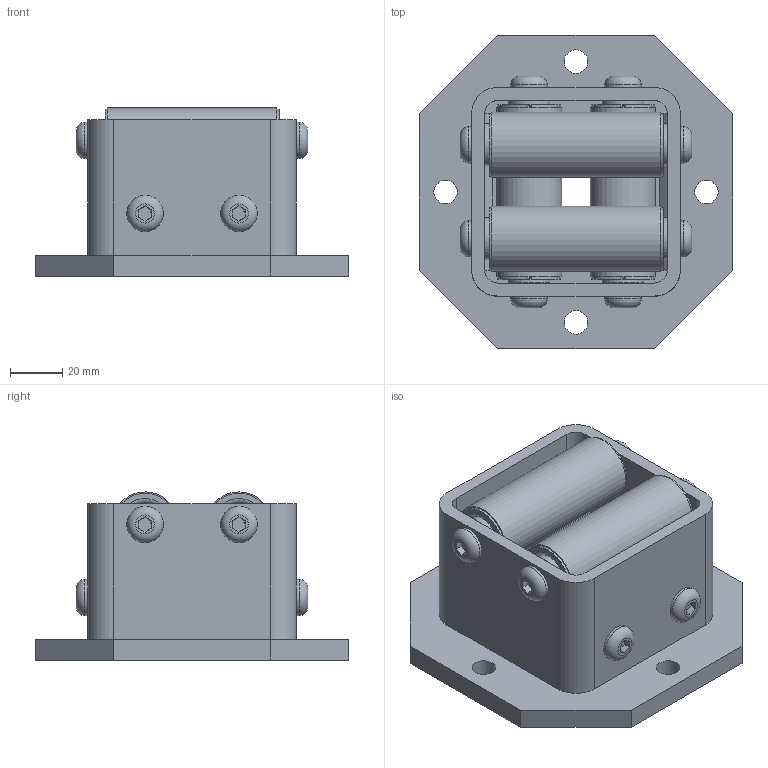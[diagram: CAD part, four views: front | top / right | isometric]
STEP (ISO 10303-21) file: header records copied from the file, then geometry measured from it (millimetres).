
FILE_DESCRIPTION(/* description */ ('Seilkreuz SK 01 G'),/* implementation_level */ '2;1');
FILE_NAME(/* name */ 'Z:\Workspace\03 Seilrollen\1.412 Seilkreuz\1.412.01 Seilkreuz SK 01 G\1.412.01 Seilkreuz SK 01 G.stp',/* time_stamp */ '2021-10-26T08:23:54+02:00',/* author */ ('cad-user'),/* organization */ (''),/* preprocessor_version */ 'ST-DEVELOPER v18',/* originating_system */ 'Autodesk Inventor 2020',/* authorisation */ '');
FILE_SCHEMA (('AUTOMOTIVE_DESIGN { 1 0 10303 214 3 1 1 }'));
Length unit declared in the file: millimetre
Products named in the file (9): 1.412.01 Seilkreuz SK 01 G; 1.412.01.01 Konsole Schweißteil; 1.412.01.01 Konsole Schweißteil_1; 1.412.01.02 Platte; 1.412.01.03 VK-Rohr 80x80x5; 1.412.01.04 Rohr ø25 x 4; BB1617DU; 1.412.01.05 Achse; ISO 7380 - M8 x 25
Assembly tree (28 placements, depth 3):
  1.412.01 Seilkreuz SK 01 G
    1.412.01.01 Konsole Schweißteil
      1.412.01.01 Konsole Schweißteil_1
      1.412.01.02 Platte
      1.412.01.03 VK-Rohr 80x80x5
    1.412.01.04 Rohr ø25 x 4  x4
    BB1617DU  x8
    1.412.01.05 Achse  x4
    ISO 7380 - M8 x 25  x8
Bounding box: 120 x 120 x 64.49 mm (x, y, z)
Volume: 293928.5 mm3; surface area: 145641.8 mm2
Topology: 28 solids, 28 shells, 335 faces, 849 edges, 586 vertices
Faces by surface type: plane 182, cylinder 89, torus 32, cone 32
Full cylindrical faces by diameter (mm): 6.647 x8, 8 x8, 8.2 x8, 9 x4, 14 x8, 16 x4, 17 x4, 18 x8, 25 x4, 45 x1
Entity records: 3480 total; most frequent: CARTESIAN_POINT 589, DIRECTION 588, ORIENTED_EDGE 476, EDGE_CURVE 238, AXIS2_PLACEMENT_3D 230, VERTEX_POINT 166, EDGE_LOOP 130, LINE 128
